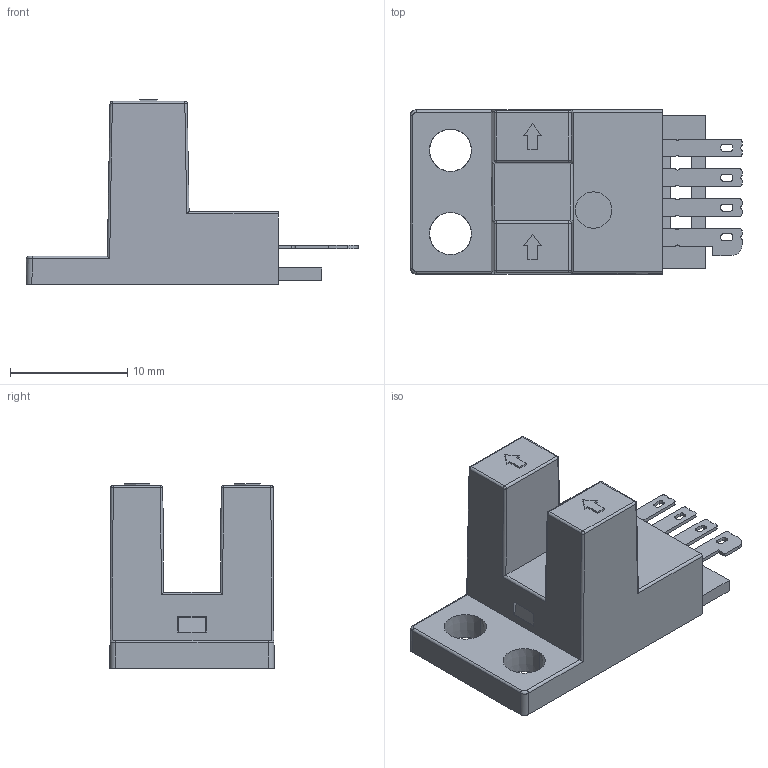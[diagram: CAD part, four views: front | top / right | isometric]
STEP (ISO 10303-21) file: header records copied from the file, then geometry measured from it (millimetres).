
FILE_DESCRIPTION((''),'2;1');
FILE_NAME('FF-U674QJ_ASM','2018-07-23T17:14:56',('Administrator'),(''),'CREO PARAMETRIC BY PTC INC, 2016390','CREO PARAMETRIC BY PTC INC, 2016390','');
FILE_SCHEMA(('CONFIG_CONTROL_DESIGN'));
Length unit declared in the file: millimetre
Products named in the file (4): FF-U674QJ; PCB; 674QJ_TOPCOVER; FF-U674QJ_ASM
Assembly tree (3 placements, depth 2):
  FF-U674QJ_ASM
    FF-U674QJ
    PCB
    674QJ_TOPCOVER
Bounding box: 28.3 x 14 x 15.75 mm (x, y, z)
Volume: 1295.6 mm3; surface area: 2940.3 mm2
Topology: 3 solids, 3 shells, 311 faces, 840 edges, 534 vertices
Faces by surface type: plane 232, cylinder 65, sphere 8, cone 4, torus 2
Entity records: 9702 total; most frequent: CARTESIAN_POINT 1746, ORIENTED_EDGE 1664, DIRECTION 1572, EDGE_CURVE 832, VECTOR 700, LINE 700, VERTEX_POINT 534, AXIS2_PLACEMENT_3D 436
